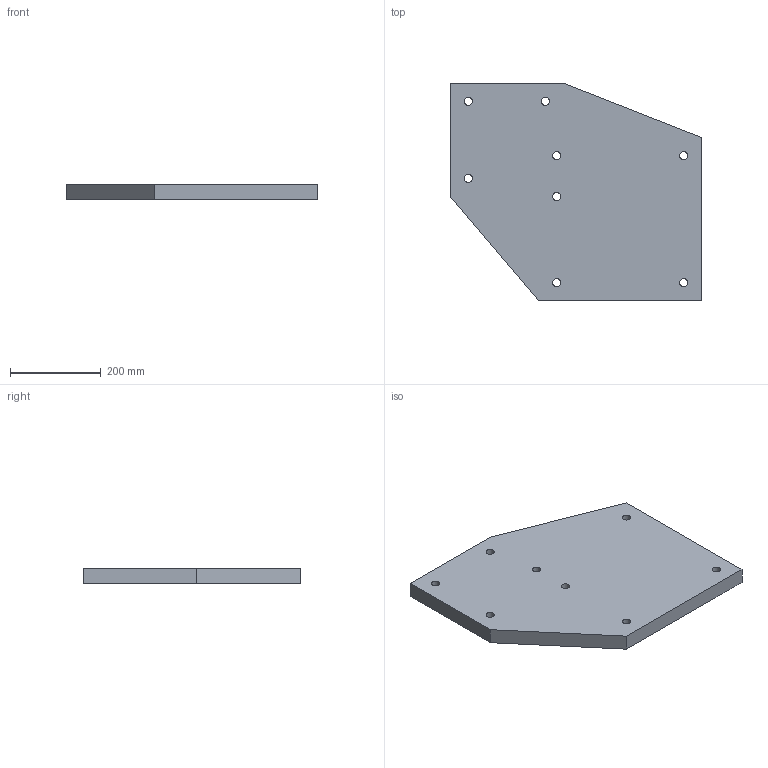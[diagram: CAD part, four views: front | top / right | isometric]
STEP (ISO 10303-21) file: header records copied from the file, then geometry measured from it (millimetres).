
FILE_DESCRIPTION(('Open CASCADE Model'),'2;1');
FILE_NAME('Open CASCADE Shape Model','2026-10-19T10:09:20',('Author'),( 'Open CASCADE'),'Open CASCADE STEP processor 8.0','Open CASCADE 8.0' ,'Unknown');
FILE_SCHEMA(('AUTOMOTIVE_DESIGN { 1 0 10303 214 1 1 1 1 }'));
Length unit declared in the file: millimetre
Products named in the file (1): BASE_COMBINADA_PORTICO_TOLVA_SUR_t35_P05 99
Bounding box: 555 x 480 x 35 mm (x, y, z)
Volume: 7827373.7 mm3; surface area: 527837.5 mm2
Topology: 1 solids, 1 shells, 16 faces, 42 edges, 28 vertices
Faces by surface type: plane 8, cylinder 8
Full cylindrical faces by diameter (mm): 18 x8
Entity records: 1138 total; most frequent: CARTESIAN_POINT 267, DIRECTION 160, LINE 94, VECTOR 94, ORIENTED_EDGE 84, PCURVE 84, DEFINITIONAL_REPRESENTATION 84, EDGE_CURVE 42
